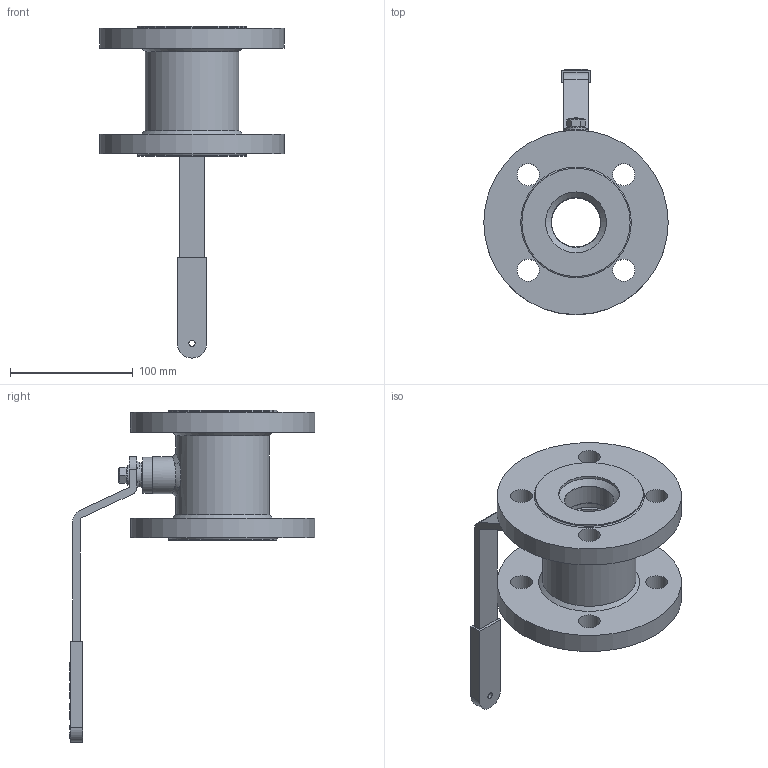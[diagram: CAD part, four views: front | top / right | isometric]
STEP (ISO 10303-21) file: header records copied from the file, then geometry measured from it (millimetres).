
FILE_DESCRIPTION(/* description */ (''),/* implementation_level */ '2;1');
FILE_NAME(/* name */ 'S:\Rysunki Konstrukcyjne\Dokumenty konstrukcyjne INVENTOR\Modele kooperacyjne\Rys. handlowe 31.10.2017 M. Moryto\40.21k.000.B1-10-40.00.stp',/* time_stamp */ '2017-10-31T08:15:00+01:00',/* author */ ('pdrozdzowski'),/* organization */ (''),/* preprocessor_version */ 'ST-DEVELOPER v15.6',/* originating_system */ 'Autodesk Inventor 2015',/* authorisation */ '');
FILE_SCHEMA (('AUTOMOTIVE_DESIGN { 1 0 10303 214 3 1 1 }'));
Length unit declared in the file: centimetre
Products named in the file (1): 40.21k.000.B1-10-40.00
Bounding box: 150 x 199.95 x 270 mm (x, y, z)
Volume: 738621.1 mm3; surface area: 173211.1 mm2
Topology: 1 solids, 12 shells, 568 faces, 1487 edges, 971 vertices
Faces by surface type: plane 434, cylinder 95, cone 28, bspline 6, sphere 3, torus 2
Full cylindrical faces by diameter (mm): 1.7 x2, 5 x1, 8 x1, 8.4 x1, 14 x4, 14.5 x1, 16 x1, 18 x9, 18.5 x1, 19 x2, 20 x2, 22.5 x4, 23 x2, 29 x1, 30 x1, 40 x3, 41 x2, 49.5 x2, 60 x2, 66 x2, 68.1 x1, 76.1 x3, 77 x2, 88 x2, 150 x2
Entity records: 20646 total; most frequent: CARTESIAN_POINT 6380, ORIENTED_EDGE 2746, DIRECTION 2709, EDGE_CURVE 1372, LINE 1055, VECTOR 1055, VERTEX_POINT 934, AXIS2_PLACEMENT_3D 827
